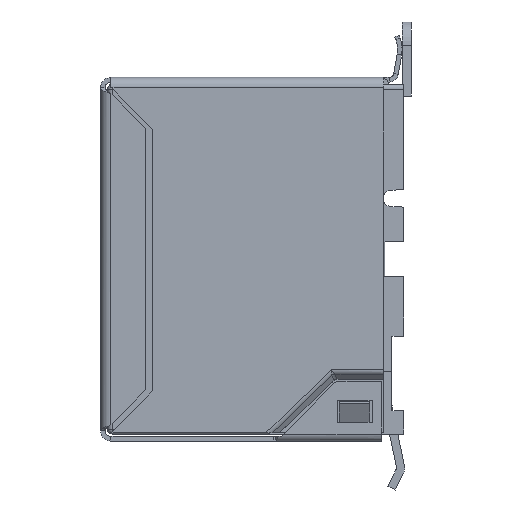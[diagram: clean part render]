
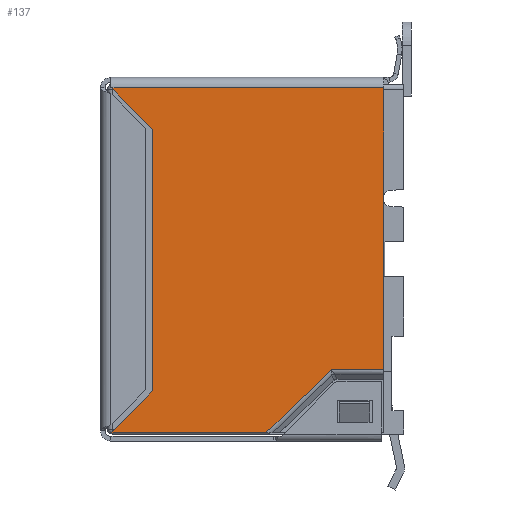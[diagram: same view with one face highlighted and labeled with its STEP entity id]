
A CAD part, left-side view. The second image highlights one B-rep face of the part: STEP entity #137.
In plain terms, the highlighted planar face has unit normal (-1, 0, 0).
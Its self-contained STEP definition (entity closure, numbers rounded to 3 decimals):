
#20 = VERTEX_POINT ( 'NONE', #17000 ) ;
#107 = LINE ( 'NONE', #1909, #2157 ) ;
#137 = ADVANCED_FACE ( 'NONE', ( #12497 ), #3884, .F. ) ;
#384 = CARTESIAN_POINT ( 'NONE',  ( -7.925, -3.058, -9.95 ) ) ;
#476 = CARTESIAN_POINT ( 'NONE',  ( -7.925, -8.26, -12.15 ) ) ;
#769 = DIRECTION ( 'NONE',  ( 0., 1., 0. ) ) ;
#1906 = LINE ( 'NONE', #384, #18169 ) ;
#1909 = CARTESIAN_POINT ( 'NONE',  ( -7.925, -15.15, -12.15 ) ) ;
#2095 = EDGE_CURVE ( 'NONE', #14956, #9888, #1906, .T. ) ;
#2157 = VECTOR ( 'NONE', #5050, 1000. ) ;
#2543 = CARTESIAN_POINT ( 'NONE',  ( -7.925, -7.61, -16.45 ) ) ;
#3321 = VECTOR ( 'NONE', #16024, 1000. ) ;
#3509 = DIRECTION ( 'NONE',  ( 0., 1., 0. ) ) ;
#3815 = DIRECTION ( 'NONE',  ( 0., 1., 0. ) ) ;
#3884 = PLANE ( 'NONE',  #8124 ) ;
#4051 = DIRECTION ( 'NONE',  ( 0., 0.707, 0.707 ) ) ;
#4462 = EDGE_CURVE ( 'NONE', #11159, #5161, #6596, .T. ) ;
#4646 = CARTESIAN_POINT ( 'NONE',  ( -7.925, -3.058, -12.15 ) ) ;
#5050 = DIRECTION ( 'NONE',  ( 0., 0., -1. ) ) ;
#5133 = VECTOR ( 'NONE', #769, 1000. ) ;
#5161 = VERTEX_POINT ( 'NONE', #14306 ) ;
#5619 = CARTESIAN_POINT ( 'NONE',  ( -7.925, -15.15, -0.45 ) ) ;
#5863 = EDGE_CURVE ( 'NONE', #6759, #7093, #107, .T. ) ;
#5943 = EDGE_CURVE ( 'NONE', #6759, #7421, #17498, .T. ) ;
#6269 = VECTOR ( 'NONE', #6584, 1000. ) ;
#6570 = EDGE_CURVE ( 'NONE', #20, #5161, #11288, .T. ) ;
#6584 = DIRECTION ( 'NONE',  ( 0., 0.707, -0.707 ) ) ;
#6596 = LINE ( 'NONE', #6862, #12311 ) ;
#6759 = VERTEX_POINT ( 'NONE', #5619 ) ;
#6862 = CARTESIAN_POINT ( 'NONE',  ( -7.925, -11.98, -12.08 ) ) ;
#6996 = ORIENTED_EDGE ( 'NONE', *, *, #5863, .F. ) ;
#7093 = VERTEX_POINT ( 'NONE', #11650 ) ;
#7223 = LINE ( 'NONE', #11434, #3321 ) ;
#7421 = VERTEX_POINT ( 'NONE', #12234 ) ;
#7532 = LINE ( 'NONE', #476, #16679 ) ;
#7600 = VECTOR ( 'NONE', #15782, 1000. ) ;
#7909 = ORIENTED_EDGE ( 'NONE', *, *, #4462, .T. ) ;
#8124 = AXIS2_PLACEMENT_3D ( 'NONE', #2543, #15723, #3815 ) ;
#8159 = EDGE_CURVE ( 'NONE', #7093, #14956, #7532, .T. ) ;
#9038 = LINE ( 'NONE', #16858, #5133 ) ;
#9332 = CARTESIAN_POINT ( 'NONE',  ( -7.925, -3.38, -12.22 ) ) ;
#9888 = VERTEX_POINT ( 'NONE', #17091 ) ;
#10645 = ORIENTED_EDGE ( 'NONE', *, *, #5943, .T. ) ;
#10712 = EDGE_LOOP ( 'NONE', ( #17433, #12619, #6996, #10645, #17891, #7909, #13192, #16250 ) ) ;
#11159 = VERTEX_POINT ( 'NONE', #11719 ) ;
#11288 = LINE ( 'NONE', #15569, #7600 ) ;
#11434 = CARTESIAN_POINT ( 'NONE',  ( -7.925, -0.428, -7.175 ) ) ;
#11650 = CARTESIAN_POINT ( 'NONE',  ( -7.925, -15.15, -12.15 ) ) ;
#11719 = CARTESIAN_POINT ( 'NONE',  ( -7.925, -2.15, -2.25 ) ) ;
#12234 = CARTESIAN_POINT ( 'NONE',  ( -7.925, -13.35, -2.25 ) ) ;
#12311 = VECTOR ( 'NONE', #4051, 1000. ) ;
#12497 = FACE_OUTER_BOUND ( 'NONE', #10712, .T. ) ;
#12619 = ORIENTED_EDGE ( 'NONE', *, *, #8159, .F. ) ;
#13192 = ORIENTED_EDGE ( 'NONE', *, *, #6570, .F. ) ;
#13609 = DIRECTION ( 'NONE',  ( 0., 0., 1. ) ) ;
#14306 = CARTESIAN_POINT ( 'NONE',  ( -7.925, -0.35, -0.45 ) ) ;
#14422 = EDGE_CURVE ( 'NONE', #9888, #20, #7223, .T. ) ;
#14956 = VERTEX_POINT ( 'NONE', #4646 ) ;
#15294 = EDGE_CURVE ( 'NONE', #7421, #11159, #9038, .T. ) ;
#15569 = CARTESIAN_POINT ( 'NONE',  ( -7.925, -0.35, -0.45 ) ) ;
#15723 = DIRECTION ( 'NONE',  ( 1., 0., 0. ) ) ;
#15782 = DIRECTION ( 'NONE',  ( 0., 0., 1. ) ) ;
#16024 = DIRECTION ( 'NONE',  ( 0., 0.694, 0.72 ) ) ;
#16250 = ORIENTED_EDGE ( 'NONE', *, *, #14422, .F. ) ;
#16679 = VECTOR ( 'NONE', #3509, 1000. ) ;
#16858 = CARTESIAN_POINT ( 'NONE',  ( -7.925, -7.61, -2.25 ) ) ;
#17000 = CARTESIAN_POINT ( 'NONE',  ( -7.925, -0.35, -7.095 ) ) ;
#17091 = CARTESIAN_POINT ( 'NONE',  ( -7.925, -3.058, -9.907 ) ) ;
#17433 = ORIENTED_EDGE ( 'NONE', *, *, #2095, .F. ) ;
#17498 = LINE ( 'NONE', #9332, #6269 ) ;
#17891 = ORIENTED_EDGE ( 'NONE', *, *, #15294, .T. ) ;
#18169 = VECTOR ( 'NONE', #13609, 1000. ) ;
